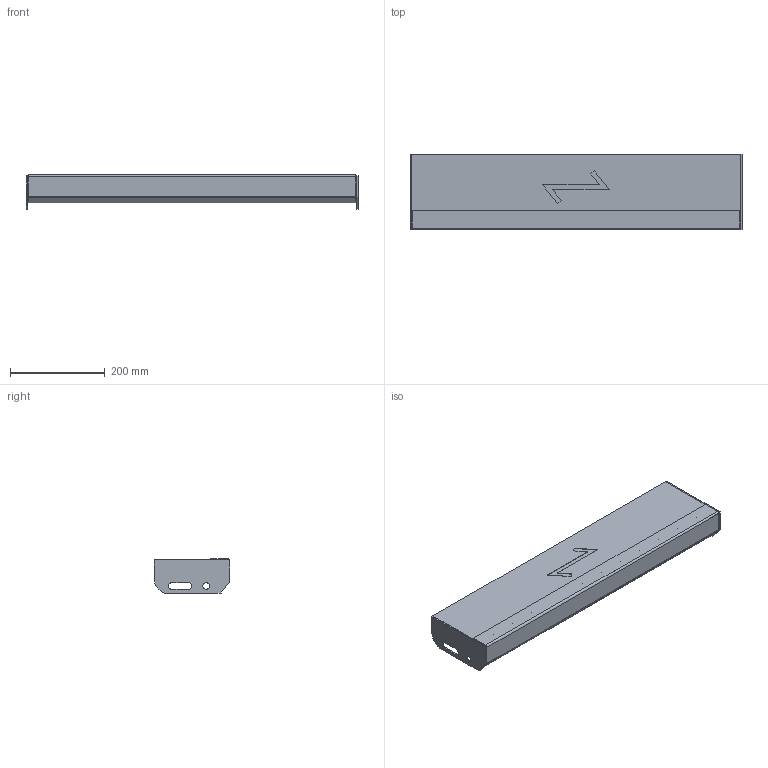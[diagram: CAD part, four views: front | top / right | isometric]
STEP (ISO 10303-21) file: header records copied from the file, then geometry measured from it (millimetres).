
FILE_DESCRIPTION (( 'STEP AP203' ), '1' );
FILE_NAME ('StegTH6-S-nya_steget-700x160.STEP', '2020-03-04T07:42:02', ( '' ), ( '' ), 'SwSTEP 2.0', 'SolidWorks 2019', '' );
FILE_SCHEMA (( 'CONFIG_CONTROL_DESIGN' ));
Length unit declared in the file: millimetre
Products named in the file (5): SW0000039243; SW0000039440; SW0000038696; SW0000038763; StegTH6-S-nya_steget-700x160
Assembly tree (5 placements, depth 3):
  StegTH6-S-nya_steget-700x160
    SW0000039440
      SW0000038763
      SW0000039243
      SW0000038696  x2
Bounding box: 700 x 160 x 72 mm (x, y, z)
Volume: 2622739.7 mm3; surface area: 418936.1 mm2
Topology: 4 solids, 4 shells, 67 faces, 158 edges, 100 vertices
Faces by surface type: plane 51, cylinder 16
Entity records: 2002 total; most frequent: DIRECTION 261, CARTESIAN_POINT 254, ORIENTED_EDGE 238, EDGE_CURVE 119, LINE 99, VECTOR 99, AXIS2_PLACEMENT_3D 81, VERTEX_POINT 74
